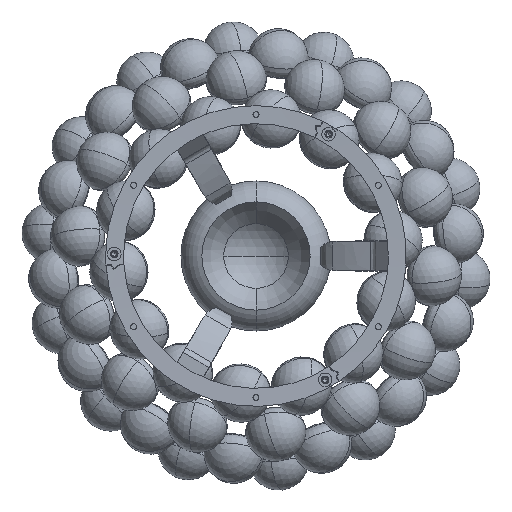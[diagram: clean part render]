
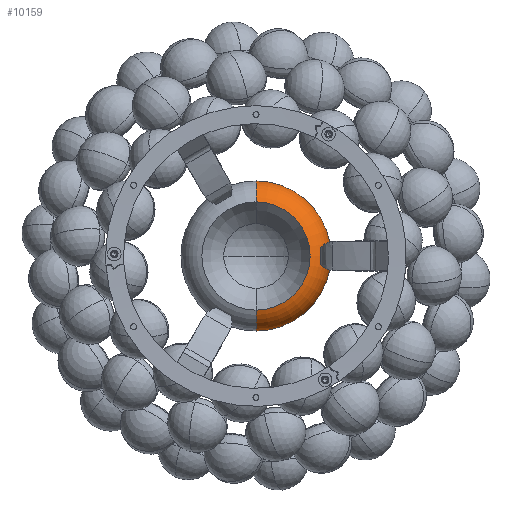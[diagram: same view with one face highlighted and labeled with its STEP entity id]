
A CAD part, front view. The second image highlights one B-rep face of the part: STEP entity #10159.
In plain terms, the highlighted toroidal (fillet/blend) face has major radius 28.931 mm and minor radius 21 mm.
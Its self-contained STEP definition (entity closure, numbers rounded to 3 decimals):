
#1166 = ORIENTED_EDGE ( 'NONE', *, *, #18153, .T. ) ;
#5971 = CARTESIAN_POINT ( 'NONE',  ( 0., 240.794, 0. ) ) ;
#7238 = ORIENTED_EDGE ( 'NONE', *, *, #12775, .T. ) ;
#7861 = CIRCLE ( 'NONE', #15654, 36. ) ;
#8492 = CARTESIAN_POINT ( 'NONE',  ( 0., 240.794, 49.908 ) ) ;
#8765 = VERTEX_POINT ( 'NONE', #38163 ) ;
#9700 = AXIS2_PLACEMENT_3D ( 'NONE', #50321, #17064, #30034 ) ;
#10159 = ADVANCED_FACE ( 'NONE', ( #49245 ), #51405, .T. ) ;
#11853 = DIRECTION ( 'NONE',  ( -1., 0., 0. ) ) ;
#12775 = EDGE_CURVE ( 'NONE', #8765, #38008, #51168, .T. ) ;
#15654 = AXIS2_PLACEMENT_3D ( 'NONE', #26046, #51485, #21200 ) ;
#17064 = DIRECTION ( 'NONE',  ( 0., -1., 0. ) ) ;
#18153 = EDGE_CURVE ( 'NONE', #38008, #50457, #44300, .T. ) ;
#21200 = DIRECTION ( 'NONE',  ( 0., 0., -1. ) ) ;
#22236 = DIRECTION ( 'NONE',  ( 0., -1., 0. ) ) ;
#22480 = CARTESIAN_POINT ( 'NONE',  ( 0., 222., 36. ) ) ;
#22668 = CARTESIAN_POINT ( 'NONE',  ( 0., 241.775, 28.931 ) ) ;
#23759 = CARTESIAN_POINT ( 'NONE',  ( 0., 241.775, -28.931 ) ) ;
#26046 = CARTESIAN_POINT ( 'NONE',  ( 0., 222., 0. ) ) ;
#26962 = DIRECTION ( 'NONE',  ( 0., 0., -1. ) ) ;
#27244 = DIRECTION ( 'NONE',  ( 1., 0., 0. ) ) ;
#27491 = CIRCLE ( 'NONE', #28336, 21. ) ;
#27589 = AXIS2_PLACEMENT_3D ( 'NONE', #5971, #22236, #52258 ) ;
#28330 = DIRECTION ( 'NONE',  ( 0., 0., 1. ) ) ;
#28336 = AXIS2_PLACEMENT_3D ( 'NONE', #23759, #11853, #28330 ) ;
#30034 = DIRECTION ( 'NONE',  ( 0., 0., -1. ) ) ;
#38008 = VERTEX_POINT ( 'NONE', #8492 ) ;
#38015 = ORIENTED_EDGE ( 'NONE', *, *, #50841, .F. ) ;
#38163 = CARTESIAN_POINT ( 'NONE',  ( 0., 240.794, -49.908 ) ) ;
#38181 = ORIENTED_EDGE ( 'NONE', *, *, #42196, .F. ) ;
#42196 = EDGE_CURVE ( 'NONE', #42787, #50457, #7861, .T. ) ;
#42787 = VERTEX_POINT ( 'NONE', #49422 ) ;
#44300 = CIRCLE ( 'NONE', #48684, 21. ) ;
#45662 = EDGE_LOOP ( 'NONE', ( #7238, #1166, #38181, #38015 ) ) ;
#48684 = AXIS2_PLACEMENT_3D ( 'NONE', #22668, #27244, #26962 ) ;
#49245 = FACE_OUTER_BOUND ( 'NONE', #45662, .T. ) ;
#49422 = CARTESIAN_POINT ( 'NONE',  ( 0., 222., -36. ) ) ;
#50321 = CARTESIAN_POINT ( 'NONE',  ( 0., 241.775, 0. ) ) ;
#50457 = VERTEX_POINT ( 'NONE', #22480 ) ;
#50841 = EDGE_CURVE ( 'NONE', #8765, #42787, #27491, .T. ) ;
#51168 = CIRCLE ( 'NONE', #27589, 49.908 ) ;
#51405 = TOROIDAL_SURFACE ( 'NONE', #9700, 28.931, 21. ) ;
#51485 = DIRECTION ( 'NONE',  ( 0., -1., 0. ) ) ;
#52258 = DIRECTION ( 'NONE',  ( 0., 0., -1. ) ) ;
